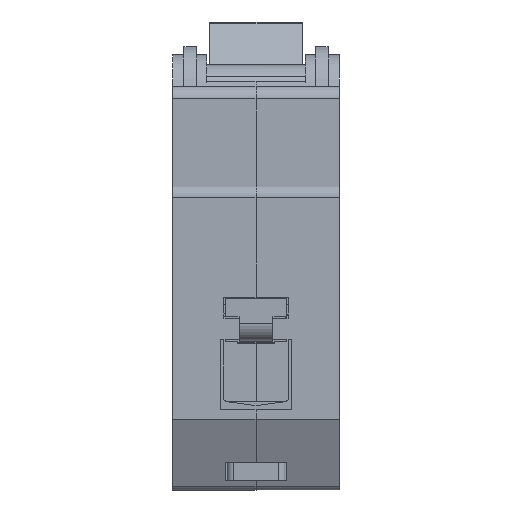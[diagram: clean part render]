
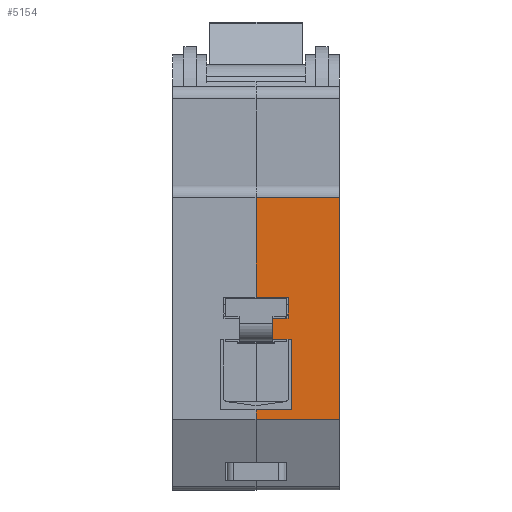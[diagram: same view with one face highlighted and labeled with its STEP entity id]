
A CAD part, front view. The second image highlights one B-rep face of the part: STEP entity #5154.
In plain terms, the highlighted planar face has unit normal (0, -1, 0) as drawn and (1, 0, 0) by its records, which use the part's own axes.
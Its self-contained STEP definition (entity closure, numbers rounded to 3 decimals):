
#4592 = VERTEX_POINT ( 'NONE', #8700 ) ;
#4619 = VERTEX_POINT ( 'NONE', #8777 ) ;
#4621 = EDGE_CURVE ( 'NONE', #4619, #4592, #8776, .T. ) ;
#4833 = VERTEX_POINT ( 'NONE', #9177 ) ;
#4835 = EDGE_CURVE ( 'NONE', #4833, #4836, #9176, .T. ) ;
#4836 = VERTEX_POINT ( 'NONE', #9172 ) ;
#5067 = EDGE_LOOP ( 'NONE', ( #5069, #5073, #5076, #5077, #5080, #5134, #5139, #5144, #5148, #5151, #5119, #5120 ) ) ;
#5069 = ORIENTED_EDGE ( 'NONE', *, *, #5070, .T. ) ;
#5070 = EDGE_CURVE ( 'NONE', #5093, #5071, #9546, .T. ) ;
#5071 = VERTEX_POINT ( 'NONE', #9542 ) ;
#5073 = ORIENTED_EDGE ( 'NONE', *, *, #5075, .T. ) ;
#5075 = EDGE_CURVE ( 'NONE', #5071, #4836, #9540, .T. ) ;
#5076 = ORIENTED_EDGE ( 'NONE', *, *, #4835, .F. ) ;
#5077 = ORIENTED_EDGE ( 'NONE', *, *, #5078, .F. ) ;
#5078 = EDGE_CURVE ( 'NONE', #5079, #4833, #9536, .T. ) ;
#5079 = VERTEX_POINT ( 'NONE', #9532 ) ;
#5080 = ORIENTED_EDGE ( 'NONE', *, *, #5133, .F. ) ;
#5081 = VERTEX_POINT ( 'NONE', #9531 ) ;
#5093 = VERTEX_POINT ( 'NONE', #9578 ) ;
#5118 = EDGE_CURVE ( 'NONE', #4592, #5150, #9598, .T. ) ;
#5119 = ORIENTED_EDGE ( 'NONE', *, *, #4621, .F. ) ;
#5120 = ORIENTED_EDGE ( 'NONE', *, *, #5153, .T. ) ;
#5133 = EDGE_CURVE ( 'NONE', #5081, #5079, #9630, .T. ) ;
#5134 = ORIENTED_EDGE ( 'NONE', *, *, #5135, .F. ) ;
#5135 = EDGE_CURVE ( 'NONE', #5136, #5081, #9626, .T. ) ;
#5136 = VERTEX_POINT ( 'NONE', #9622 ) ;
#5139 = ORIENTED_EDGE ( 'NONE', *, *, #5140, .F. ) ;
#5140 = EDGE_CURVE ( 'NONE', #5142, #5136, #9674, .T. ) ;
#5142 = VERTEX_POINT ( 'NONE', #9670 ) ;
#5144 = ORIENTED_EDGE ( 'NONE', *, *, #5145, .F. ) ;
#5145 = EDGE_CURVE ( 'NONE', #5146, #5142, #9669, .T. ) ;
#5146 = VERTEX_POINT ( 'NONE', #9654 ) ;
#5148 = ORIENTED_EDGE ( 'NONE', *, *, #5149, .F. ) ;
#5149 = EDGE_CURVE ( 'NONE', #5150, #5146, #9653, .T. ) ;
#5150 = VERTEX_POINT ( 'NONE', #9649 ) ;
#5151 = ORIENTED_EDGE ( 'NONE', *, *, #5118, .F. ) ;
#5153 = EDGE_CURVE ( 'NONE', #4619, #5093, #9714, .T. ) ;
#5154 = ADVANCED_FACE ( 'NONE', ( #9710 ), #9708, .F. ) ;
#8700 = CARTESIAN_POINT ( 'NONE',  ( 67.5, 13.5, 52.5 ) ) ;
#8773 = DIRECTION ( 'NONE',  ( 0., 0., -1. ) ) ;
#8774 = VECTOR ( 'NONE', #8773, 1000. ) ;
#8775 = CARTESIAN_POINT ( 'NONE',  ( 67.5, 13.5, 16. ) ) ;
#8776 = LINE ( 'NONE', #8775, #8774 ) ;
#8777 = CARTESIAN_POINT ( 'NONE',  ( 67.5, 13.5, 54. ) ) ;
#9172 = CARTESIAN_POINT ( 'NONE',  ( 67.5, 13.5, 18. ) ) ;
#9173 = DIRECTION ( 'NONE',  ( 0., 0., -1. ) ) ;
#9174 = VECTOR ( 'NONE', #9173, 1000. ) ;
#9175 = CARTESIAN_POINT ( 'NONE',  ( 67.5, 13.5, 16. ) ) ;
#9176 = LINE ( 'NONE', #9175, #9174 ) ;
#9177 = CARTESIAN_POINT ( 'NONE',  ( 67.5, 13.5, 34.2 ) ) ;
#9531 = CARTESIAN_POINT ( 'NONE',  ( 67.5, 8.3, 37.6 ) ) ;
#9532 = CARTESIAN_POINT ( 'NONE',  ( 67.5, 8.3, 34.2 ) ) ;
#9533 = DIRECTION ( 'NONE',  ( 0., 1., 0. ) ) ;
#9534 = VECTOR ( 'NONE', #9533, 1000. ) ;
#9535 = CARTESIAN_POINT ( 'NONE',  ( 67.5, 13.5, 34.2 ) ) ;
#9536 = LINE ( 'NONE', #9535, #9534 ) ;
#9537 = DIRECTION ( 'NONE',  ( 0., 1., 0. ) ) ;
#9538 = VECTOR ( 'NONE', #9537, 1000. ) ;
#9539 = CARTESIAN_POINT ( 'NONE',  ( 67.5, 13.5, 18. ) ) ;
#9540 = LINE ( 'NONE', #9539, #9538 ) ;
#9542 = CARTESIAN_POINT ( 'NONE',  ( 67.5, 0., 18. ) ) ;
#9543 = DIRECTION ( 'NONE',  ( 0., 0., -1. ) ) ;
#9544 = VECTOR ( 'NONE', #9543, 1000. ) ;
#9545 = CARTESIAN_POINT ( 'NONE',  ( 67.5, 0., 16. ) ) ;
#9546 = LINE ( 'NONE', #9545, #9544 ) ;
#9578 = CARTESIAN_POINT ( 'NONE',  ( 67.5, 0., 54. ) ) ;
#9595 = DIRECTION ( 'NONE',  ( 0., -1., 0. ) ) ;
#9596 = VECTOR ( 'NONE', #9595, 1000. ) ;
#9597 = CARTESIAN_POINT ( 'NONE',  ( 67.5, 7.8, 52.5 ) ) ;
#9598 = LINE ( 'NONE', #9597, #9596 ) ;
#9622 = CARTESIAN_POINT ( 'NONE',  ( 67.5, 10.8, 37.6 ) ) ;
#9623 = DIRECTION ( 'NONE',  ( 0., -1., 0. ) ) ;
#9624 = VECTOR ( 'NONE', #9623, 1000. ) ;
#9625 = CARTESIAN_POINT ( 'NONE',  ( 67.5, 8.3, 37.6 ) ) ;
#9626 = LINE ( 'NONE', #9625, #9624 ) ;
#9627 = DIRECTION ( 'NONE',  ( 0., 0., -1. ) ) ;
#9628 = VECTOR ( 'NONE', #9627, 1000. ) ;
#9629 = CARTESIAN_POINT ( 'NONE',  ( 67.5, 8.3, 34.2 ) ) ;
#9630 = LINE ( 'NONE', #9629, #9628 ) ;
#9649 = CARTESIAN_POINT ( 'NONE',  ( 67.5, 7.8, 52.5 ) ) ;
#9650 = DIRECTION ( 'NONE',  ( 0., 0., -1. ) ) ;
#9651 = VECTOR ( 'NONE', #9650, 1000. ) ;
#9652 = CARTESIAN_POINT ( 'NONE',  ( 67.5, 7.8, 41. ) ) ;
#9653 = LINE ( 'NONE', #9652, #9651 ) ;
#9654 = CARTESIAN_POINT ( 'NONE',  ( 67.5, 7.8, 41. ) ) ;
#9655 = DIRECTION ( 'NONE',  ( 0., 1., 0. ) ) ;
#9656 = VECTOR ( 'NONE', #9655, 1000. ) ;
#9667 = CARTESIAN_POINT ( 'NONE',  ( 67.5, 10.8, 41. ) ) ;
#9669 = LINE ( 'NONE', #9667, #9656 ) ;
#9670 = CARTESIAN_POINT ( 'NONE',  ( 67.5, 10.8, 41. ) ) ;
#9671 = DIRECTION ( 'NONE',  ( 0., 0., -1. ) ) ;
#9672 = VECTOR ( 'NONE', #9671, 1000. ) ;
#9673 = CARTESIAN_POINT ( 'NONE',  ( 67.5, 10.8, 37.6 ) ) ;
#9674 = LINE ( 'NONE', #9673, #9672 ) ;
#9704 = DIRECTION ( 'NONE',  ( 0., 0., 1. ) ) ;
#9705 = DIRECTION ( 'NONE',  ( -1., 0., 0. ) ) ;
#9706 = CARTESIAN_POINT ( 'NONE',  ( 67.5, 13.5, 16. ) ) ;
#9707 = AXIS2_PLACEMENT_3D ( 'NONE', #9706, #9705, #9704 ) ;
#9708 = PLANE ( 'NONE',  #9707 ) ;
#9710 = FACE_OUTER_BOUND ( 'NONE', #5067, .T. ) ;
#9711 = DIRECTION ( 'NONE',  ( 0., -1., 0. ) ) ;
#9712 = VECTOR ( 'NONE', #9711, 1000. ) ;
#9713 = CARTESIAN_POINT ( 'NONE',  ( 67.5, 13.5, 54. ) ) ;
#9714 = LINE ( 'NONE', #9713, #9712 ) ;
